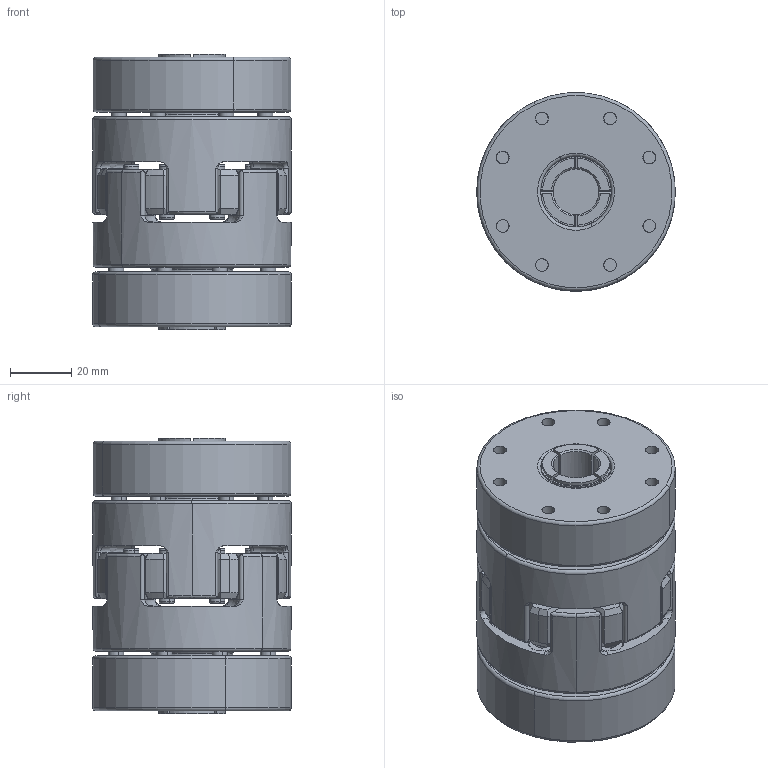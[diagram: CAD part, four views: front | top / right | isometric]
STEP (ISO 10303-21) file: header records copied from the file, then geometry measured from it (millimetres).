
FILE_DESCRIPTION (( 'STEP AP203' ), '1' );
FILE_NAME ('SJC-65T-15X15.STEP', '2014-08-16T02:46:53', ( 'Z77' ), ( '' ), 'SwSTEP 2.0', 'SolidWorks 2013', '' );
FILE_SCHEMA (( 'CONFIG_CONTROL_DESIGN' ));
Length unit declared in the file: millimetre
Products named in the file (1): SJC-65T-15X15
Bounding box: 65 x 65 x 90.3 mm (x, y, z)
Volume: 243549.7 mm3; surface area: 65907.5 mm2
Topology: 1 solids, 1 shells, 1091 faces, 2708 edges, 1637 vertices
Faces by surface type: cylinder 377, plane 324, torus 220, cone 170
Entity records: 33584 total; most frequent: CARTESIAN_POINT 7105, DIRECTION 5981, ORIENTED_EDGE 5352, EDGE_CURVE 2676, AXIS2_PLACEMENT_3D 2513, VERTEX_POINT 1637, CIRCLE 1421, EDGE_LOOP 1213
